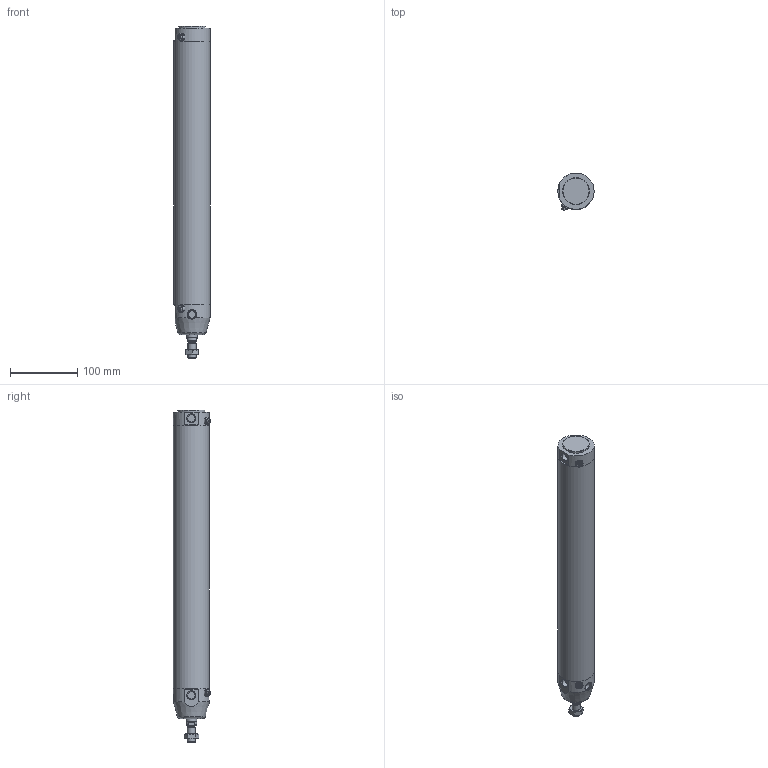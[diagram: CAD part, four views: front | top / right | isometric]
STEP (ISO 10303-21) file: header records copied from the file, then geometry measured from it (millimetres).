
FILE_DESCRIPTION(/* description */ (''),/* implementation_level */ '2;1');
FILE_NAME(/* name */ 'I:\Area Tecnica\Documenti\A-Manieri\_Inventor\12X\12X#E_###_####_#_#\12XBE_050_0350_#_#.stp',/* time_stamp */ '2015-05-08T13:58:21+02:00',/* author */ ('maniean1'),/* organization */ ('Pneumax S.p.A.'),/* preprocessor_version */ 'ST-DEVELOPER v15.2',/* originating_system */ 'Autodesk Inventor 2014',/* authorisation */ '');
FILE_SCHEMA (('AUTOMOTIVE_DESIGN { 1 0 10303 214 3 1 1 }'));
Length unit declared in the file: millimetre
Products named in the file (6): C1250_619-0350; 12X50_623; S12X50_0350; 12X_50_11; 12X50_612; 12XBE_050_0350_#_#
Bounding box: 54 x 55.88 x 495 mm (x, y, z)
Volume: 424135.8 mm3; surface area: 183847.5 mm2
Topology: 5 solids, 5 shells, 83 faces, 174 edges, 112 vertices
Faces by surface type: plane 45, cylinder 22, cone 13, torus 3
Full cylindrical faces by diameter (mm): 5 x2, 10.2 x1, 10.9 x2, 11 x2, 11.4 x2, 12 x2, 14 x1, 14.1 x2, 15.6 x1, 16 x1, 40 x1, 50 x2, 54 x3
Entity records: 2203 total; most frequent: CARTESIAN_POINT 508, DIRECTION 359, ORIENTED_EDGE 254, AXIS2_PLACEMENT_3D 161, EDGE_LOOP 136, EDGE_CURVE 127, VERTEX_POINT 101, ADVANCED_FACE 83
